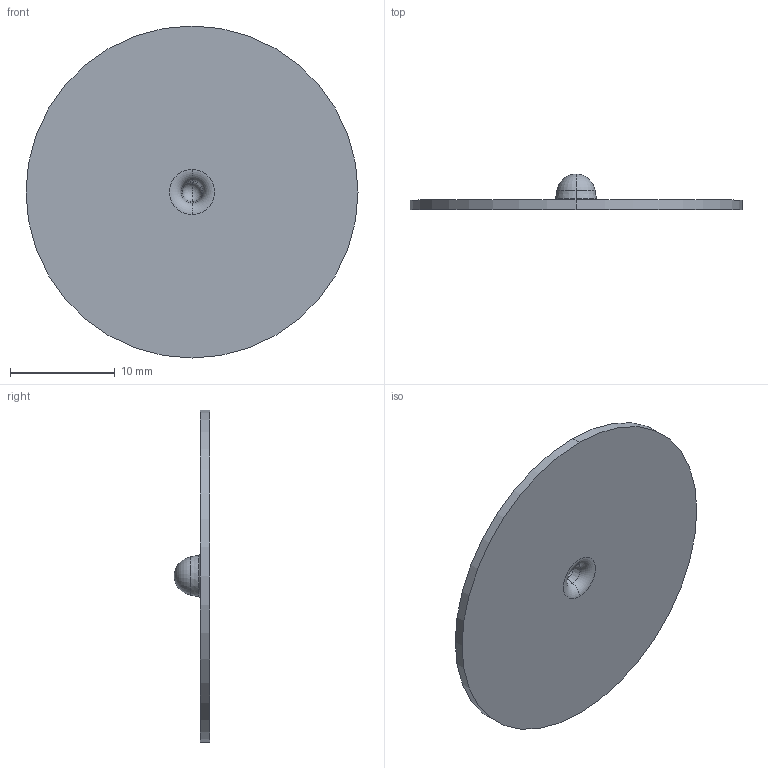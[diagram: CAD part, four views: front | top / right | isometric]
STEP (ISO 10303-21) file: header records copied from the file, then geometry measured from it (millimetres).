
FILE_DESCRIPTION (( 'STEP AP203' ), '1' );
FILE_NAME ('1667172-20.STEP', '2024-11-13T15:22:58', ( '' ), ( '' ), 'SwSTEP 2.0', 'SolidWorks 2024', '' );
FILE_SCHEMA (( 'CONFIG_CONTROL_DESIGN' ));
Length unit declared in the file: inch
Products named in the file (1): 1667172-20
Bounding box: 31.75 x 3.4 x 31.75 mm (x, y, z)
Volume: 735.7 mm3; surface area: 1700.4 mm2
Topology: 1 solids, 1 shells, 16 faces, 34 edges, 18 vertices
Faces by surface type: torus 8, cone 4, plane 2, cylinder 2
Entity records: 489 total; most frequent: DIRECTION 88, CARTESIAN_POINT 65, ORIENTED_EDGE 60, AXIS2_PLACEMENT_3D 41, EDGE_CURVE 30, CIRCLE 24, EDGE_LOOP 18, VERTEX_POINT 18
